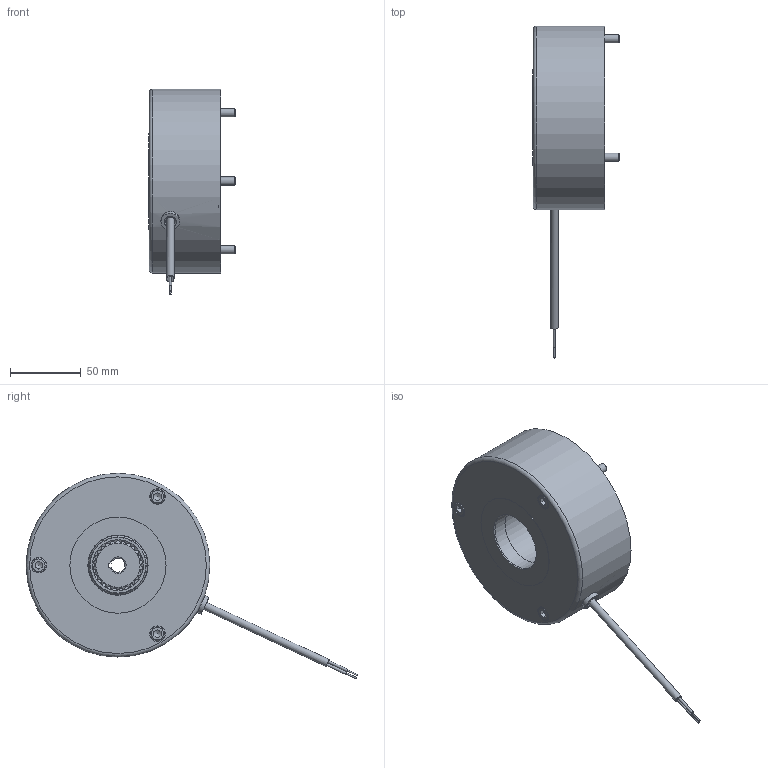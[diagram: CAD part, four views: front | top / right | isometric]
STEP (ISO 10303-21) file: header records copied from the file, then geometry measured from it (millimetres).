
FILE_DESCRIPTION(/* description */ (''),/* implementation_level */ '2;1');
FILE_NAME(/* name */ 'C:\SapWorkDir\Inventor\IP1\ConvertTempPath\5028626_IPT_000.ipt.stp',/* time_stamp */ '2020-09-11T13:45:57+02:00',/* author */ ('STRATE'),/* organization */ (''),/* preprocessor_version */ 'ST-DEVELOPER v17',/* originating_system */ 'Autodesk Inventor 2018',/* authorisation */ '');
FILE_SCHEMA (('AUTOMOTIVE_DESIGN { 1 0 10303 214 3 1 1 }'));
Length unit declared in the file: millimetre
Products named in the file (1): 5028626
Bounding box: 61.3 x 234.79 x 145.31 mm (x, y, z)
Volume: 569456.6 mm3; surface area: 109673.7 mm2
Topology: 3 solids, 3 shells, 377 faces, 1050 edges, 717 vertices
Faces by surface type: cylinder 263, plane 74, cone 23, torus 17
Full cylindrical faces by diameter (mm): 1 x2, 1.85 x2, 5.3 x1, 5.5 x2, 6 x5, 6.2 x3, 6.3 x2, 6.5 x3, 6.6 x1, 6.9 x5, 8.5 x2, 8.8 x2, 9.9 x3, 10 x3, 11 x3, 13.2 x1, 42 x1, 44 x2, 65.7 x2, 66.1 x2, 68 x1, 95 x1, 120 x1, 122 x1, 128 x1, 130 x1
Entity records: 13585 total; most frequent: CARTESIAN_POINT 3331, ORIENTED_EDGE 2098, DIRECTION 2018, EDGE_CURVE 1049, AXIS2_PLACEMENT_3D 838, VERTEX_POINT 717, CIRCLE 460, EDGE_LOOP 442
